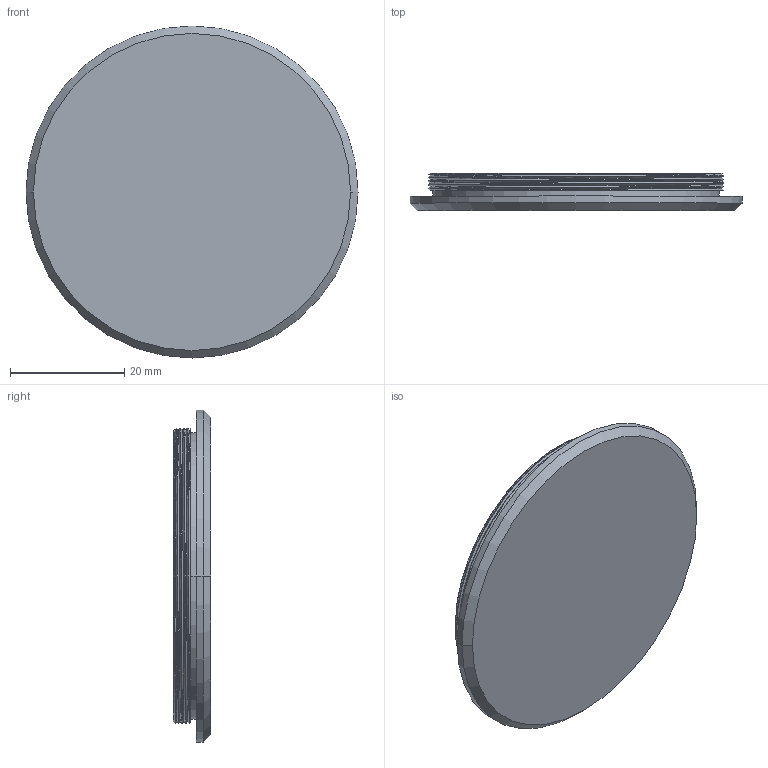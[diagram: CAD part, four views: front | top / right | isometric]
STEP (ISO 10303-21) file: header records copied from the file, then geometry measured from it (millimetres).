
FILE_DESCRIPTION((''),'2;1');
FILE_NAME('CSL-P2','2020-10-29T',('Administrator'),(''),'CREO PARAMETRIC BY PTC INC, 2015290','CREO PARAMETRIC BY PTC INC, 2015290','');
FILE_SCHEMA(('CONFIG_CONTROL_DESIGN'));
Length unit declared in the file: millimetre
Products named in the file (1): CSL-P2
Bounding box: 58 x 6.5 x 58 mm (x, y, z)
Volume: 7385.3 mm3; surface area: 7275.2 mm2
Topology: 1 solids, 1 shells, 29 faces, 68 edges, 44 vertices
Faces by surface type: cylinder 14, bspline 6, plane 5, cone 4
Entity records: 2084 total; most frequent: CARTESIAN_POINT 1435, ORIENTED_EDGE 136, DIRECTION 103, EDGE_CURVE 68, VERTEX_POINT 44, AXIS2_PLACEMENT_3D 41, EDGE_LOOP 32, FACE_OUTER_BOUND 29
